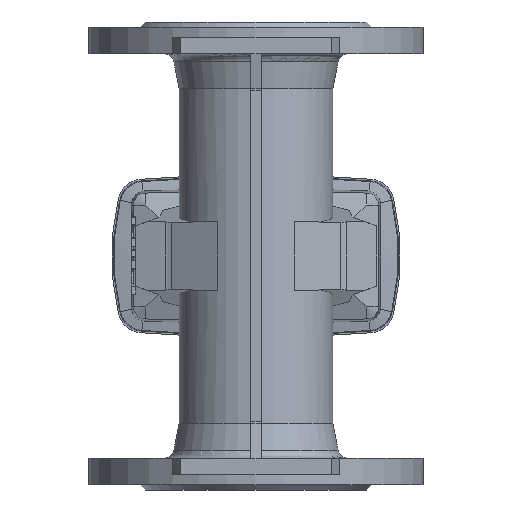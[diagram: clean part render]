
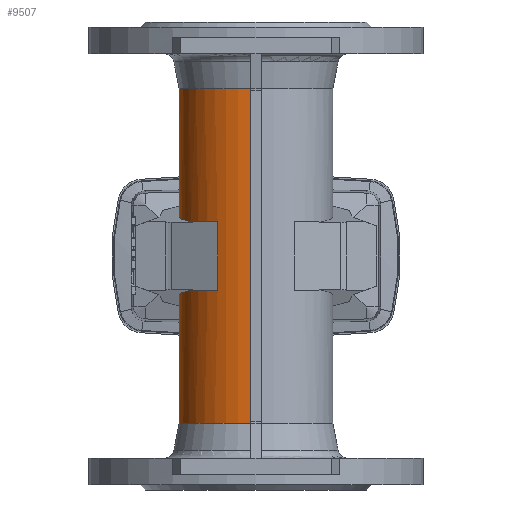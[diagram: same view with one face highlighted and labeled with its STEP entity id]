
A CAD part, front view. The second image highlights one B-rep face of the part: STEP entity #9507.
In plain terms, the highlighted cylindrical face has radius 46 mm (diameter 92 mm), a partial arc.
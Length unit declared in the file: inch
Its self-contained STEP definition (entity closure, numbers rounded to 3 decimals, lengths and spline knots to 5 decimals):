
#514 = VERTEX_POINT ( 'NONE', #7316 ) ;
#626 = VERTEX_POINT ( 'NONE', #7337 ) ;
#658 = VERTEX_POINT ( 'NONE', #7369 ) ;
#1650 = ORIENTED_EDGE ( 'NONE', *, *, #3271, .T. ) ;
#1652 = ORIENTED_EDGE ( 'NONE', *, *, #3253, .F. ) ;
#1653 = DIRECTION ( 'NONE',  ( 0., -1., 0. ) ) ;
#1657 = ORIENTED_EDGE ( 'NONE', *, *, #3246, .T. ) ;
#1658 = ORIENTED_EDGE ( 'NONE', *, *, #3261, .T. ) ;
#1662 = ORIENTED_EDGE ( 'NONE', *, *, #3231, .F. ) ;
#1664 = DIRECTION ( 'NONE',  ( 0., 0., 1. ) ) ;
#1665 = ORIENTED_EDGE ( 'NONE', *, *, #3263, .F. ) ;
#1668 = ORIENTED_EDGE ( 'NONE', *, *, #3236, .F. ) ;
#1667 = CARTESIAN_POINT ( 'NONE',  ( 0., 0., 0. ) ) ;
#1669 = ORIENTED_EDGE ( 'NONE', *, *, #3260, .T. ) ;
#1671 = ORIENTED_EDGE ( 'NONE', *, *, #3262, .T. ) ;
#2105 = CARTESIAN_POINT ( 'NONE',  ( -0.90551, -1.56839, -0.81097 ) ) ;
#2164 = CARTESIAN_POINT ( 'NONE',  ( -0.11811, 1.80717, -1.21528 ) ) ;
#2317 = AXIS2_PLACEMENT_3D ( 'NONE', #1667, #1664, #1653 ) ;
#2730 = CARTESIAN_POINT ( 'NONE',  ( -1.52927, -0.97013, -0.80008 ) ) ;
#2731 = CARTESIAN_POINT ( 'NONE',  ( -1.37191, -1.21818, -0.80282 ) ) ;
#2734 = CARTESIAN_POINT ( 'NONE',  ( -1.65678, 1.70661, 1.17402 ) ) ;
#2737 = CARTESIAN_POINT ( 'NONE',  ( -1.15991, -1.42152, -0.80653 ) ) ;
#2738 = CARTESIAN_POINT ( 'NONE',  ( -0.90551, -1.56839, -0.81097 ) ) ;
#2739 = CARTESIAN_POINT ( 'NONE',  ( -0.11811, 1.80717, 1.21528 ) ) ;
#2744 = CARTESIAN_POINT ( 'NONE',  ( -2.35526, 0.33193, 0.96851 ) ) ;
#2745 = CARTESIAN_POINT ( 'NONE',  ( -1.52927, -0.97013, 0.80008 ) ) ;
#2752 = CARTESIAN_POINT ( 'NONE',  ( -1.52927, -0.97013, 0.80008 ) ) ;
#2753 = CARTESIAN_POINT ( 'NONE',  ( -1.37191, -1.21818, 0.80282 ) ) ;
#2754 = CARTESIAN_POINT ( 'NONE',  ( 0., 0., -3.94268 ) ) ;
#2755 = DIRECTION ( 'NONE',  ( 0., 0., 1. ) ) ;
#2756 = DIRECTION ( 'NONE',  ( 0., -1., 0. ) ) ;
#2757 = CARTESIAN_POINT ( 'NONE',  ( -0.11811, -1.80717, 0. ) ) ;
#2758 = CARTESIAN_POINT ( 'NONE',  ( -1.15991, -1.42152, 0.80653 ) ) ;
#2759 = CARTESIAN_POINT ( 'NONE',  ( -0.90551, -1.56839, 0.81097 ) ) ;
#2760 = DIRECTION ( 'NONE',  ( 0., 0., 1. ) ) ;
#2761 = CARTESIAN_POINT ( 'NONE',  ( -0.11811, 1.80717, 0. ) ) ;
#2763 = DIRECTION ( 'NONE',  ( 0., 0., 1. ) ) ;
#2768 = CARTESIAN_POINT ( 'NONE',  ( -0.11811, 1.80717, 0. ) ) ;
#2780 = DIRECTION ( 'NONE',  ( 0., 0., -1. ) ) ;
#3231 = EDGE_CURVE ( 'NONE', #9730, #7753, #6819, .T. ) ;
#3236 = EDGE_CURVE ( 'NONE', #626, #7790, #9767, .T. ) ;
#3246 = EDGE_CURVE ( 'NONE', #7840, #9671, #9782, .T. ) ;
#3253 = EDGE_CURVE ( 'NONE', #7753, #9671, #6824, .T. ) ;
#3256 = EDGE_CURVE ( 'NONE', #514, #7818, #6825, .T. ) ;
#3260 = EDGE_CURVE ( 'NONE', #7788, #658, #9801, .T. ) ;
#3261 = EDGE_CURVE ( 'NONE', #7818, #7840, #6826, .T. ) ;
#3262 = EDGE_CURVE ( 'NONE', #658, #7790, #9802, .T. ) ;
#3263 = EDGE_CURVE ( 'NONE', #514, #626, #9804, .T. ) ;
#3271 = EDGE_CURVE ( 'NONE', #9730, #7788, #9817, .T. ) ;
#3851 = CARTESIAN_POINT ( 'NONE',  ( -2.35526, 0.33193, -0.96851 ) ) ;
#3856 = CARTESIAN_POINT ( 'NONE',  ( -1.65678, 1.70661, -1.17402 ) ) ;
#3858 = CARTESIAN_POINT ( 'NONE',  ( -0.11811, 1.80717, -1.21528 ) ) ;
#3859 = CARTESIAN_POINT ( 'NONE',  ( -1.52927, -0.97013, -0.80008 ) ) ;
#3870 = CARTESIAN_POINT ( 'NONE',  ( 0., 0., 3.94268 ) ) ;
#3871 = DIRECTION ( 'NONE',  ( 0., 0., 1. ) ) ;
#3872 = DIRECTION ( 'NONE',  ( 0., -1., 0. ) ) ;
#3888 = CARTESIAN_POINT ( 'NONE',  ( -0.90551, -1.56839, 5.51181 ) ) ;
#3898 = DIRECTION ( 'NONE',  ( 0., 0., -1. ) ) ;
#4026 = CARTESIAN_POINT ( 'NONE',  ( -1.52927, -0.97013, -0.80008 ) ) ;
#4058 = CARTESIAN_POINT ( 'NONE',  ( -0.11811, 1.80717, -3.94268 ) ) ;
#4060 = CARTESIAN_POINT ( 'NONE',  ( -0.11811, -1.80717, 3.94268 ) ) ;
#4088 = CARTESIAN_POINT ( 'NONE',  ( -1.52927, -0.97013, 0.80008 ) ) ;
#4110 = CARTESIAN_POINT ( 'NONE',  ( -0.90551, -1.56839, 0.81097 ) ) ;
#4251 = ORIENTED_EDGE ( 'NONE', *, *, #3256, .T. ) ;
#5945 = EDGE_LOOP ( 'NONE', ( #1657, #1652, #1662, #1650, #1669, #1671, #1668, #1665, #4251, #1658 ) ) ;
#6819 =( BOUNDED_CURVE ( )  B_SPLINE_CURVE ( 3, ( #3858, #3856, #3851, #3859 ),
 .UNSPECIFIED., .F., .T. ) 
 B_SPLINE_CURVE_WITH_KNOTS ( ( 4, 4 ),
 ( 0.19003, 2.26088 ),
 .UNSPECIFIED. ) 
 CURVE ( )  GEOMETRIC_REPRESENTATION_ITEM ( )  RATIONAL_B_SPLINE_CURVE ( ( 1., 0.673, 0.673, 1. ) ) 
 REPRESENTATION_ITEM ( '' )  );
#6824 =( BOUNDED_CURVE ( )  B_SPLINE_CURVE ( 3, ( #2730, #2731, #2737, #2738 ),
 .UNSPECIFIED., .F., .T. ) 
 B_SPLINE_CURVE_WITH_KNOTS ( ( 4, 4 ),
 ( 3.7069, 4.18879 ),
 .UNSPECIFIED. ) 
 CURVE ( )  GEOMETRIC_REPRESENTATION_ITEM ( )  RATIONAL_B_SPLINE_CURVE ( ( 1., 0.981, 0.981, 1. ) ) 
 REPRESENTATION_ITEM ( '' )  );
#6825 =( BOUNDED_CURVE ( )  B_SPLINE_CURVE ( 3, ( #2739, #2734, #2744, #2745 ),
 .UNSPECIFIED., .F., .T. ) 
 B_SPLINE_CURVE_WITH_KNOTS ( ( 4, 4 ),
 ( 0.19003, 2.26088 ),
 .UNSPECIFIED. ) 
 CURVE ( )  GEOMETRIC_REPRESENTATION_ITEM ( )  RATIONAL_B_SPLINE_CURVE ( ( 1., 0.673, 0.673, 1. ) ) 
 REPRESENTATION_ITEM ( '' )  );
#6826 =( BOUNDED_CURVE ( )  B_SPLINE_CURVE ( 3, ( #2752, #2753, #2758, #2759 ),
 .UNSPECIFIED., .F., .T. ) 
 B_SPLINE_CURVE_WITH_KNOTS ( ( 4, 4 ),
 ( 3.7069, 4.18879 ),
 .UNSPECIFIED. ) 
 CURVE ( )  GEOMETRIC_REPRESENTATION_ITEM ( )  RATIONAL_B_SPLINE_CURVE ( ( 1., 0.981, 0.981, 1. ) ) 
 REPRESENTATION_ITEM ( '' )  );
#7316 = CARTESIAN_POINT ( 'NONE',  ( -0.11811, 1.80717, 1.21528 ) ) ;
#7337 = CARTESIAN_POINT ( 'NONE',  ( -0.11811, 1.80717, 3.94268 ) ) ;
#7369 = CARTESIAN_POINT ( 'NONE',  ( -0.11811, -1.80717, -3.94268 ) ) ;
#7753 = VERTEX_POINT ( 'NONE', #4026 ) ;
#7788 = VERTEX_POINT ( 'NONE', #4058 ) ;
#7790 = VERTEX_POINT ( 'NONE', #4060 ) ;
#7818 = VERTEX_POINT ( 'NONE', #4088 ) ;
#7840 = VERTEX_POINT ( 'NONE', #4110 ) ;
#8584 = AXIS2_PLACEMENT_3D ( 'NONE', #3870, #3871, #3872 ) ;
#8588 = AXIS2_PLACEMENT_3D ( 'NONE', #2754, #2755, #2756 ) ;
#9029 = CYLINDRICAL_SURFACE ( 'NONE', #2317, 1.81102 ) ;
#9030 = FACE_OUTER_BOUND ( 'NONE', #5945, .T. ) ;
#9507 = ADVANCED_FACE ( 'NONE', ( #9030 ), #9029, .T. ) ;
#9671 = VERTEX_POINT ( 'NONE', #2105 ) ;
#9730 = VERTEX_POINT ( 'NONE', #2164 ) ;
#9767 = CIRCLE ( 'NONE', #8584, 1.81102 ) ;
#9782 = LINE ( 'NONE', #3888, #9784 ) ;
#9784 = VECTOR ( 'NONE', #3898, 39.37008 ) ;
#9801 = CIRCLE ( 'NONE', #8588, 1.81102 ) ;
#9802 = LINE ( 'NONE', #2757, #9803 ) ;
#9803 = VECTOR ( 'NONE', #2760, 39.37008 ) ;
#9804 = LINE ( 'NONE', #2761, #9807 ) ;
#9807 = VECTOR ( 'NONE', #2763, 39.37008 ) ;
#9817 = LINE ( 'NONE', #2768, #9822 ) ;
#9822 = VECTOR ( 'NONE', #2780, 39.37008 ) ;
